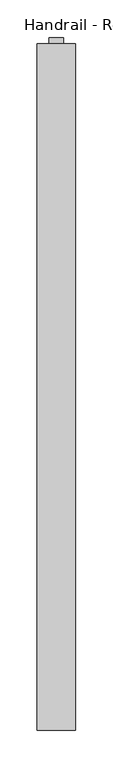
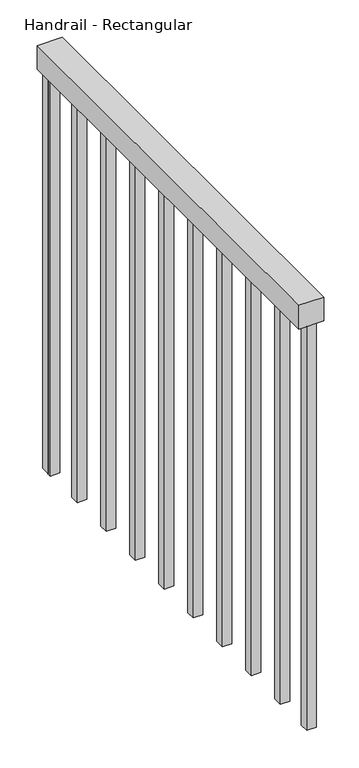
"""IFC4 building model written with IfcOpenShell, lengths in millimetres: railing geometry, Handrail - Rectangular."""

from ifc_helpers import new_model, si_unit, frame, origin, place, context, project, spatial, polyline, outline, extrude, source, transform, mapped, element, save


def handrail_rectangular_64536371(model_context):
    return source(origin(), model_context, "Body", "SweptSolid", [
        extrude(outline(polyline([(-12798.6909741, 2259.3790009), (-12849.4909741, 2259.3790009), (-12849.4909741, 3175.2793907), (-12798.6909741, 3175.2793907), (-12798.6909741, 2259.3790009)])), frame((0.0, 0.0, 916.5411765), z_axis=(0.0, 0.0, 1.0), x_axis=(1.0, 0.0, 0.0)), (0.0, 0.0, 1.0), 50.8),
        extrude(outline(polyline([(-12814.5659741, 3164.2540009), (-12833.6159741, 3164.2540009), (-12833.6159741, 3183.3040009), (-12814.5659741, 3183.3040009), (-12814.5659741, 3164.2540009)])), frame((0.0, 0.0, 52.9411765), z_axis=(0.0, 0.0, 1.0), x_axis=(1.0, 0.0, 0.0)), (0.0, 0.0, 1.0), 863.6),
        extrude(outline(polyline([(-12814.5659741, 3062.6540009), (-12833.6159741, 3062.6540009), (-12833.6159741, 3081.7040009), (-12814.5659741, 3081.7040009), (-12814.5659741, 3062.6540009)])), frame((0.0, 0.0, 52.9411765), z_axis=(0.0, 0.0, 1.0), x_axis=(1.0, 0.0, 0.0)), (0.0, 0.0, 1.0), 863.6),
        extrude(outline(polyline([(-12814.5659741, 2961.0540009), (-12833.6159741, 2961.0540009), (-12833.6159741, 2980.1040009), (-12814.5659741, 2980.1040009), (-12814.5659741, 2961.0540009)])), frame((0.0, 0.0, 52.9411765), z_axis=(0.0, 0.0, 1.0), x_axis=(1.0, 0.0, 0.0)), (0.0, 0.0, 1.0), 863.6),
        extrude(outline(polyline([(-12814.5659741, 2859.4540009), (-12833.6159741, 2859.4540009), (-12833.6159741, 2878.5040009), (-12814.5659741, 2878.5040009), (-12814.5659741, 2859.4540009)])), frame((0.0, 0.0, 52.9411765), z_axis=(0.0, 0.0, 1.0), x_axis=(1.0, 0.0, 0.0)), (0.0, 0.0, 1.0), 863.6),
        extrude(outline(polyline([(-12814.5659741, 2757.8540009), (-12833.6159741, 2757.8540009), (-12833.6159741, 2776.9040009), (-12814.5659741, 2776.9040009), (-12814.5659741, 2757.8540009)])), frame((0.0, 0.0, 52.9411765), z_axis=(0.0, 0.0, 1.0), x_axis=(1.0, 0.0, 0.0)), (0.0, 0.0, 1.0), 863.6),
        extrude(outline(polyline([(-12814.5659741, 2656.2540009), (-12833.6159741, 2656.2540009), (-12833.6159741, 2675.3040009), (-12814.5659741, 2675.3040009), (-12814.5659741, 2656.2540009)])), frame((0.0, 0.0, 52.9411765), z_axis=(0.0, 0.0, 1.0), x_axis=(1.0, 0.0, 0.0)), (0.0, 0.0, 1.0), 863.6),
        extrude(outline(polyline([(-12814.5659741, 2554.6540009), (-12833.6159741, 2554.6540009), (-12833.6159741, 2573.7040009), (-12814.5659741, 2573.7040009), (-12814.5659741, 2554.6540009)])), frame((0.0, 0.0, 52.9411765), z_axis=(0.0, 0.0, 1.0), x_axis=(1.0, 0.0, 0.0)), (0.0, 0.0, 1.0), 863.6),
        extrude(outline(polyline([(-12814.5659741, 2453.0540009), (-12833.6159741, 2453.0540009), (-12833.6159741, 2472.1040009), (-12814.5659741, 2472.1040009), (-12814.5659741, 2453.0540009)])), frame((0.0, 0.0, 52.9411765), z_axis=(0.0, 0.0, 1.0), x_axis=(1.0, 0.0, 0.0)), (0.0, 0.0, 1.0), 863.6),
        extrude(outline(polyline([(-12814.5659741, 2351.4540009), (-12833.6159741, 2351.4540009), (-12833.6159741, 2370.5040009), (-12814.5659741, 2370.5040009), (-12814.5659741, 2351.4540009)])), frame((0.0, 0.0, 52.9411765), z_axis=(0.0, 0.0, 1.0), x_axis=(1.0, 0.0, 0.0)), (0.0, 0.0, 1.0), 863.6),
        extrude(outline(polyline([(-12814.5659741, 3156.2293907), (-12833.6159741, 3156.2293907), (-12833.6159741, 3175.2793907), (-12814.5659741, 3175.2793907), (-12814.5659741, 3156.2293907)])), frame((0.0, 0.0, 52.9411765), z_axis=(0.0, 0.0, 1.0), x_axis=(1.0, 0.0, 0.0)), (0.0, 0.0, 1.0), 863.6),
        extrude(outline(polyline([(-12814.5659741, 2259.3790009), (-12833.6159741, 2259.3790009), (-12833.6159741, 2278.4290009), (-12814.5659741, 2278.4290009), (-12814.5659741, 2259.3790009)])), frame((0.0, 0.0, 52.9411765), z_axis=(0.0, 0.0, 1.0), x_axis=(1.0, 0.0, 0.0)), (0.0, 0.0, 1.0), 863.6),
    ])


if __name__ == "__main__":
    model = new_model("IFC4")
    model_context = context("Model", 3, world=origin())
    ifc_project = project(units=[si_unit("LENGTHUNIT", "METRE", prefix="MILLI")], contexts=[model_context])
    site = spatial("IfcSite", under=ifc_project)
    building = spatial("IfcBuilding", under=site)
    placement = place(None, origin())
    handrail_rectangular_shape = handrail_rectangular_64536371(model_context)
    element("IfcRailing", 1, ObjectType="Handrail - Rectangular", at=placement, inside=building, context=model_context, shape_type="MappedRepresentation", body=[
        mapped(handrail_rectangular_shape, transform((0.0, 0.0, 0.0), x_axis=(1.0, 0.0, 0.0), y_axis=(0.0, 1.0, 0.0), z_axis=(0.0, 0.0, 1.0))),
    ])
    save(model, "model.ifc")
